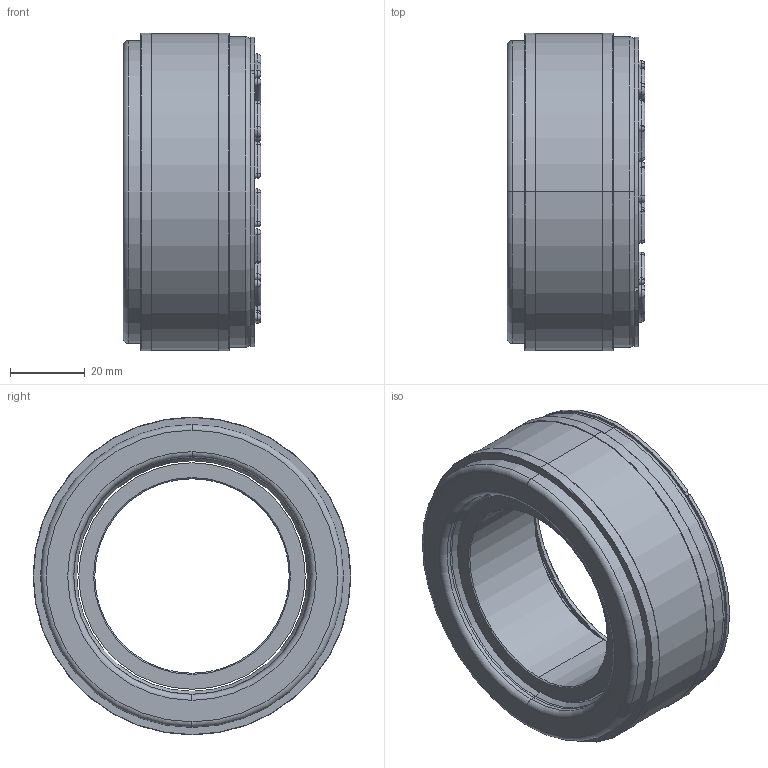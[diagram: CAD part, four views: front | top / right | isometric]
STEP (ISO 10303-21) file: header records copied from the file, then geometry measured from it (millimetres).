
FILE_DESCRIPTION (( 'STEP AP214' ), '1' );
FILE_NAME ('E-00108463.01.step', '2019-11-05T07:27:50', ( 'Admin' ), ( 'Microsoft' ), 'SwSTEP 2.0', 'SolidWorks 2018', '' );
FILE_SCHEMA (( 'AUTOMOTIVE_DESIGN' ));
Length unit declared in the file: millimetre
Products named in the file (4): E-00008197; E-00008390; E-00107699; E-00108463.01
Assembly tree (3 placements, depth 2):
  E-00108463.01
    E-00107699
    E-00008390
    E-00008197
Bounding box: 36.9 x 85 x 85 mm (x, y, z)
Volume: 106836.9 mm3; surface area: 36593.6 mm2
Topology: 3 solids, 3 shells, 1195 faces, 2621 edges, 1711 vertices
Faces by surface type: cylinder 613, plane 486, torus 88, cone 8
Entity records: 44479 total; most frequent: DIRECTION 6498, CARTESIAN_POINT 5533, ORIENTED_EDGE 5242, AXIS2_PLACEMENT_3D 2676, EDGE_CURVE 2621, VERTEX_POINT 1711, EDGE_LOOP 1486, CIRCLE 1475
